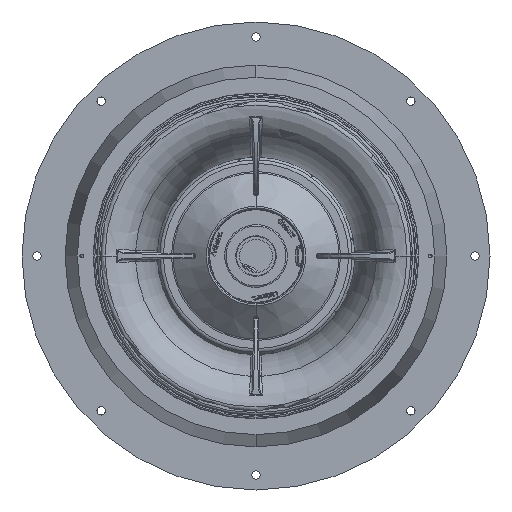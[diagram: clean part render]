
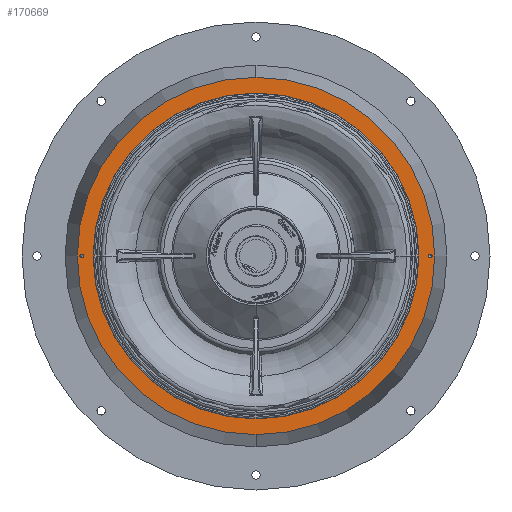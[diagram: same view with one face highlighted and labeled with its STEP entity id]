
A CAD part, front view. The second image highlights one B-rep face of the part: STEP entity #170669.
In plain terms, the highlighted planar face has unit normal (0, -1, 0).
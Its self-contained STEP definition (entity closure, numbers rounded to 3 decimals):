
#5212 = CARTESIAN_POINT ( 'NONE',  ( -377.5, -392., 4.25 ) ) ;
#6268 = CIRCLE ( 'NONE', #297183, 4.25 ) ;
#11383 = CIRCLE ( 'NONE', #293042, 4.25 ) ;
#11744 = VERTEX_POINT ( 'NONE', #149033 ) ;
#14666 = DIRECTION ( 'NONE',  ( 0., -1., 0. ) ) ;
#29015 = DIRECTION ( 'NONE',  ( 0., 0., 1. ) ) ;
#36562 = EDGE_LOOP ( 'NONE', ( #294150, #166458 ) ) ;
#39649 = VERTEX_POINT ( 'NONE', #242194 ) ;
#42661 = CARTESIAN_POINT ( 'NONE',  ( -387.5, -392., 0. ) ) ;
#44135 = CARTESIAN_POINT ( 'NONE',  ( 377.5, -392., 0. ) ) ;
#54053 = ORIENTED_EDGE ( 'NONE', *, *, #75874, .F. ) ;
#66761 = ORIENTED_EDGE ( 'NONE', *, *, #158767, .F. ) ;
#72359 = CARTESIAN_POINT ( 'NONE',  ( 377.5, -392., 4.25 ) ) ;
#73452 = CARTESIAN_POINT ( 'NONE',  ( 377.5, -392., 0. ) ) ;
#75874 = EDGE_CURVE ( 'NONE', #161004, #257844, #11383, .T. ) ;
#76857 = CARTESIAN_POINT ( 'NONE',  ( 0., -392., 0. ) ) ;
#78748 = CARTESIAN_POINT ( 'NONE',  ( -377.5, -392., -4.25 ) ) ;
#83035 = AXIS2_PLACEMENT_3D ( 'NONE', #193522, #297726, #29015 ) ;
#84203 = VERTEX_POINT ( 'NONE', #241131 ) ;
#100739 = DIRECTION ( 'NONE',  ( 0., 0., 1. ) ) ;
#109375 = CIRCLE ( 'NONE', #331610, 4.25 ) ;
#117113 = FACE_OUTER_BOUND ( 'NONE', #36562, .T. ) ;
#126517 = CIRCLE ( 'NONE', #83035, 387.5 ) ;
#133916 = EDGE_CURVE ( 'NONE', #227475, #39649, #336440, .T. ) ;
#146688 = FACE_BOUND ( 'NONE', #148909, .T. ) ;
#148909 = EDGE_LOOP ( 'NONE', ( #54053, #66761 ) ) ;
#149033 = CARTESIAN_POINT ( 'NONE',  ( 0., -392., 387.5 ) ) ;
#151581 = DIRECTION ( 'NONE',  ( 0., -1., 0. ) ) ;
#153294 = CARTESIAN_POINT ( 'NONE',  ( -377.5, -392., 0. ) ) ;
#155064 = PLANE ( 'NONE',  #212355 ) ;
#158767 = EDGE_CURVE ( 'NONE', #257844, #161004, #109375, .T. ) ;
#161004 = VERTEX_POINT ( 'NONE', #5212 ) ;
#163593 = DIRECTION ( 'NONE',  ( 0., 0., 1. ) ) ;
#166458 = ORIENTED_EDGE ( 'NONE', *, *, #313003, .T. ) ;
#170669 = ADVANCED_FACE ( 'NONE', ( #290658, #146688, #117113, #218610 ), #155064, .T. ) ;
#175311 = ORIENTED_EDGE ( 'NONE', *, *, #325468, .F. ) ;
#176770 = VERTEX_POINT ( 'NONE', #350797 ) ;
#182147 = AXIS2_PLACEMENT_3D ( 'NONE', #44135, #14666, #233515 ) ;
#193522 = CARTESIAN_POINT ( 'NONE',  ( 0., -392., 0. ) ) ;
#206288 = CIRCLE ( 'NONE', #213804, 387.5 ) ;
#206925 = DIRECTION ( 'NONE',  ( 0., 0., 1. ) ) ;
#211728 = EDGE_CURVE ( 'NONE', #11744, #328981, #206288, .T. ) ;
#212355 = AXIS2_PLACEMENT_3D ( 'NONE', #42661, #151581, #232022 ) ;
#213804 = AXIS2_PLACEMENT_3D ( 'NONE', #237669, #236480, #206925 ) ;
#215981 = EDGE_LOOP ( 'NONE', ( #316306, #236609 ) ) ;
#218610 = FACE_BOUND ( 'NONE', #215981, .T. ) ;
#219537 = AXIS2_PLACEMENT_3D ( 'NONE', #271273, #328130, #163593 ) ;
#225268 = EDGE_CURVE ( 'NONE', #84203, #176770, #313624, .T. ) ;
#227475 = VERTEX_POINT ( 'NONE', #72359 ) ;
#232022 = DIRECTION ( 'NONE',  ( 0., 0., 1. ) ) ;
#233515 = DIRECTION ( 'NONE',  ( 0., 0., 1. ) ) ;
#236480 = DIRECTION ( 'NONE',  ( 0., -1., 0. ) ) ;
#236609 = ORIENTED_EDGE ( 'NONE', *, *, #225268, .F. ) ;
#236766 = CARTESIAN_POINT ( 'NONE',  ( -377.5, -392., 0. ) ) ;
#237669 = CARTESIAN_POINT ( 'NONE',  ( 0., -392., 0. ) ) ;
#241131 = CARTESIAN_POINT ( 'NONE',  ( 0., -392., -352.5 ) ) ;
#242194 = CARTESIAN_POINT ( 'NONE',  ( 377.5, -392., -4.25 ) ) ;
#245171 = EDGE_LOOP ( 'NONE', ( #303768, #175311 ) ) ;
#245201 = CIRCLE ( 'NONE', #219537, 352.5 ) ;
#257844 = VERTEX_POINT ( 'NONE', #78748 ) ;
#259842 = DIRECTION ( 'NONE',  ( 0., -1., 0. ) ) ;
#262845 = DIRECTION ( 'NONE',  ( 0., -1., 0. ) ) ;
#263069 = AXIS2_PLACEMENT_3D ( 'NONE', #76857, #323077, #344465 ) ;
#264006 = DIRECTION ( 'NONE',  ( 0., 0., 1. ) ) ;
#266335 = DIRECTION ( 'NONE',  ( 0., -1., 0. ) ) ;
#271273 = CARTESIAN_POINT ( 'NONE',  ( 0., -392., 0. ) ) ;
#279236 = EDGE_CURVE ( 'NONE', #176770, #84203, #245201, .T. ) ;
#279621 = CARTESIAN_POINT ( 'NONE',  ( 0., -392., -387.5 ) ) ;
#290658 = FACE_BOUND ( 'NONE', #245171, .T. ) ;
#293042 = AXIS2_PLACEMENT_3D ( 'NONE', #153294, #259842, #313114 ) ;
#294150 = ORIENTED_EDGE ( 'NONE', *, *, #211728, .T. ) ;
#297183 = AXIS2_PLACEMENT_3D ( 'NONE', #73452, #262845, #100739 ) ;
#297726 = DIRECTION ( 'NONE',  ( 0., -1., 0. ) ) ;
#303768 = ORIENTED_EDGE ( 'NONE', *, *, #133916, .F. ) ;
#313003 = EDGE_CURVE ( 'NONE', #328981, #11744, #126517, .T. ) ;
#313114 = DIRECTION ( 'NONE',  ( 0., 0., 1. ) ) ;
#313624 = CIRCLE ( 'NONE', #263069, 352.5 ) ;
#316306 = ORIENTED_EDGE ( 'NONE', *, *, #279236, .F. ) ;
#323077 = DIRECTION ( 'NONE',  ( 0., -1., 0. ) ) ;
#325468 = EDGE_CURVE ( 'NONE', #39649, #227475, #6268, .T. ) ;
#328130 = DIRECTION ( 'NONE',  ( 0., -1., 0. ) ) ;
#328981 = VERTEX_POINT ( 'NONE', #279621 ) ;
#331610 = AXIS2_PLACEMENT_3D ( 'NONE', #236766, #266335, #264006 ) ;
#336440 = CIRCLE ( 'NONE', #182147, 4.25 ) ;
#344465 = DIRECTION ( 'NONE',  ( 0., 0., 1. ) ) ;
#350797 = CARTESIAN_POINT ( 'NONE',  ( 0., -392., 352.5 ) ) ;
